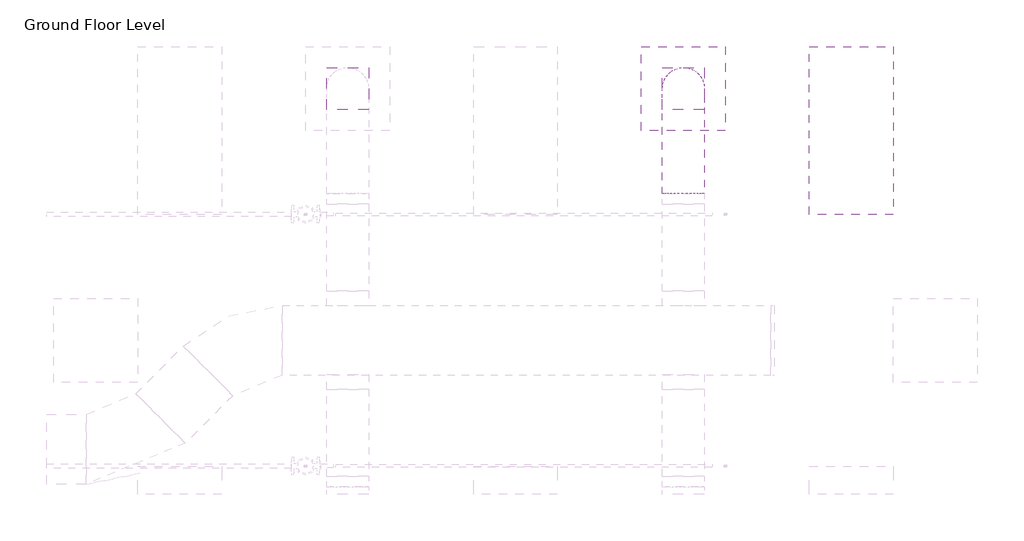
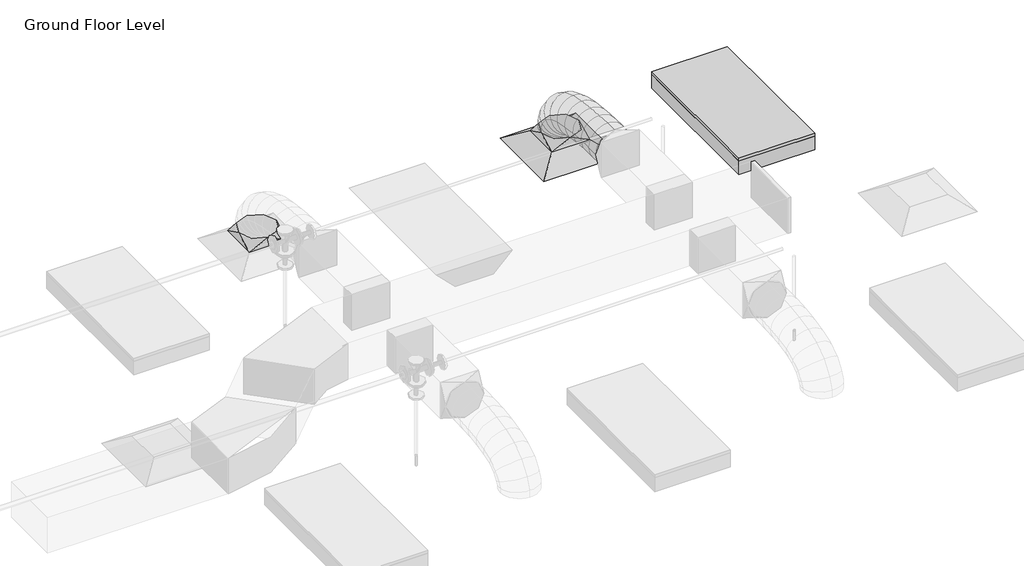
# One storey, part 75 of 75: 2 duct fittings, 1 air terminal, 1 duct segment, 1 light fixture.
"""IFC4 building model written with IfcOpenShell, lengths in millimetres."""

import ifcopenshell
import ifcopenshell.guid

model = None  # the IFC model being written
_history = None  # IfcOwnerHistory: only IFC2X3 demands one
_inside = {}  # id of a spatial element -> (the spatial element, [elements in it])
_under = {}  # id of a project, library or spatial element -> (it, [spatial elements below it])
_declared = {}  # id of a project -> (the project, [libraries it declares])
_typed = {}  # id of a type object -> (the type object, [elements of that type])
_made_of = {}  # id of a material, layer set ... -> (it, [elements and type objects made of it])


def new_model(schema):
    """Start an empty IFC model of exactly this schema.

    Asked for "IFC4X3", IfcOpenShell would pick the latest addendum, in which some entities
    have other attributes; the version numbers below select the first issue.
    IFC2X3 requires an IfcOwnerHistory on every rooted entity: one is made here for all.
    """
    global model, _history
    if schema == "IFC4X3":
        model = ifcopenshell.file(schema_version=(4, 3, 0, 0))
    else:
        model = ifcopenshell.file(schema=schema)
    _inside.clear()
    _under.clear()
    _declared.clear()
    _typed.clear()
    _made_of.clear()
    _history = None
    if model.schema == "IFC2X3":
        org = make("IfcOrganization", Name="unknown")
        user = make(
            "IfcPersonAndOrganization",
            ThePerson=make("IfcPerson", FamilyName="unknown"),
            TheOrganization=org,
        )
        app = make(
            "IfcApplication",
            ApplicationDeveloper=org,
            Version="unknown",
            ApplicationFullName="unknown",
            ApplicationIdentifier="unknown",
        )
        _history = make(
            "IfcOwnerHistory",
            OwningUser=user,
            OwningApplication=app,
            ChangeAction="ADDED",
            CreationDate=0,
        )
    return model


def make(cls, **values):
    """One entity of the class cls with the attributes given. An attribute that is None is left unset."""
    return model.create_entity(
        cls, **{name: value for name, value in values.items() if value is not None}
    )


def rooted(cls, **values):
    """An entity with a GlobalId (a new one), such as an element, a storey or a relation."""
    return make(cls, GlobalId=ifcopenshell.guid.new(), OwnerHistory=_history, **values)


def si_unit(unit_type, name, prefix=None):
    """IfcSIUnit, for example si_unit("LENGTHUNIT", "METRE", prefix="MILLI")."""
    return make("IfcSIUnit", UnitType=unit_type, Prefix=prefix, Name=name)


def assignment(units):
    """IfcUnitAssignment: the units of a project."""
    return None if units is None else make("IfcUnitAssignment", Units=units)


def point(xyz):
    """IfcCartesianPoint."""
    return None if xyz is None else make("IfcCartesianPoint", Coordinates=xyz)


def direction(xyz):
    """IfcDirection."""
    return None if xyz is None else make("IfcDirection", DirectionRatios=xyz)


def frame(location, z_axis=None, x_axis=None):
    """IfcAxis2Placement3D, a coordinate frame: its origin and axes. An axis left out is left unset."""
    return make(
        "IfcAxis2Placement3D",
        Location=point(location),
        Axis=direction(z_axis),
        RefDirection=direction(x_axis),
    )


def origin():
    """The frame at (0, 0, 0) with its axes left unset."""
    return frame((0.0, 0.0, 0.0))


def origin_with_axes():
    """The frame at (0, 0, 0) with the z axis (0, 0, 1) and the x axis (1, 0, 0) written out."""
    return frame((0.0, 0.0, 0.0), z_axis=(0.0, 0.0, 1.0), x_axis=(1.0, 0.0, 0.0))


def place(relative_to, where):
    """IfcLocalPlacement: puts the frame where relative to a parent placement (None: the world)."""
    return make(
        "IfcLocalPlacement", PlacementRelTo=relative_to, RelativePlacement=where
    )


def context(
    kind, dimensions, precision=None, world=None, true_north=None, identifier=None
):
    """IfcGeometricRepresentationContext, for example the 3D "Model" context."""
    return make(
        "IfcGeometricRepresentationContext",
        ContextIdentifier=identifier,
        ContextType=kind,
        CoordinateSpaceDimension=dimensions,
        Precision=precision,
        WorldCoordinateSystem=world,
        TrueNorth=true_north,
    )


def project(units=None, contexts=None):
    """IfcProject with its units and contexts."""
    return rooted(
        "IfcProject",
        Name="project",
        RepresentationContexts=contexts,
        UnitsInContext=assignment(units),
    )


def spatial(cls, under=None, at=None, **own):
    """A site, building, storey or space (cls), placed at a placement, below another one or the project."""
    s = rooted(cls, ObjectPlacement=at, **own)
    if under is not None:
        _under.setdefault(under.id(), (under, []))[1].append(s)
    return s


def polyline(points):
    """IfcPolyline through the points."""
    return make("IfcPolyline", Points=[point(p) for p in points])


def circle_curve(where, radius):
    """IfcCircle in the frame where."""
    return make("IfcCircle", Position=where, Radius=radius)


def ellipse_curve(where, semi_axis1, semi_axis2):
    """IfcEllipse in the frame where."""
    return make(
        "IfcEllipse", Position=where, SemiAxis1=semi_axis1, SemiAxis2=semi_axis2
    )


def outline(outer, holes=None, kind="AREA"):
    """IfcArbitraryClosedProfileDef: a profile drawn as a closed curve; with holes, ...WithVoids."""
    if holes is None:
        return make("IfcArbitraryClosedProfileDef", ProfileType=kind, OuterCurve=outer)
    return make(
        "IfcArbitraryProfileDefWithVoids",
        ProfileType=kind,
        OuterCurve=outer,
        InnerCurves=holes,
    )


def extrude(swept, where, along, depth):
    """IfcExtrudedAreaSolid: the profile swept, set in the frame where, extruded along a direction by depth."""
    return make(
        "IfcExtrudedAreaSolid",
        SweptArea=swept,
        Position=where,
        ExtrudedDirection=direction(along),
        Depth=depth,
    )


def faces_of(points, faces, orient=None, outer=None):
    """IfcFace entities. A face is a list of loops; a loop is a list of indices into points, from 0.

    orient and outer hold one flag for each loop. By default every Orientation is true, the
    first loop of a face is its IfcFaceOuterBound and the others are IfcFaceBound.
    """
    made = []
    for i, loops in enumerate(faces):
        bounds = []
        for j, loop in enumerate(loops):
            is_outer = j == 0 if outer is None else outer[i][j]
            bounds.append(
                make(
                    "IfcFaceOuterBound" if is_outer else "IfcFaceBound",
                    Bound=make("IfcPolyLoop", Polygon=[points[k] for k in loop]),
                    Orientation=True if orient is None else orient[i][j],
                )
            )
        made.append(make("IfcFace", Bounds=bounds))
    return made


def faceted_brep(points, faces, orient=None, outer=None, voids=None):
    """IfcFacetedBrep: a solid bounded by flat faces; with voids (closed shells), ...WithVoids."""
    shared = [point(p) for p in points]
    hull = make("IfcClosedShell", CfsFaces=faces_of(shared, faces, orient, outer))
    if voids is None:
        return make("IfcFacetedBrep", Outer=hull)
    return make(
        "IfcFacetedBrepWithVoids",
        Outer=hull,
        Voids=[
            make(cls, CfsFaces=faces_of(shared, fs, o, b)) for cls, fs, o, b in voids
        ],
    )


def shape(context_of_items, identifier, shape_type, items):
    """IfcShapeRepresentation: the items that make up one representation, for example the "Body"."""
    return make(
        "IfcShapeRepresentation",
        ContextOfItems=context_of_items,
        RepresentationIdentifier=identifier,
        RepresentationType=shape_type,
        Items=items,
    )


def source(mapping_origin, context_of_items, identifier, shape_type, items):
    """IfcRepresentationMap: a shape defined once, which mapped items show again and again."""
    return make(
        "IfcRepresentationMap",
        MappingOrigin=mapping_origin,
        MappedRepresentation=shape(context_of_items, identifier, shape_type, items),
    )


def transform(
    local_origin,
    x_axis=None,
    y_axis=None,
    z_axis=None,
    scale=None,
    scale2=None,
    scale3=None,
    uniform=True,
):
    """IfcCartesianTransformationOperator3D, or its non-uniform kind. x_axis, y_axis, z_axis: its Axis1, 2, 3."""
    if uniform:
        return make(
            "IfcCartesianTransformationOperator3D",
            Axis1=direction(x_axis),
            Axis2=direction(y_axis),
            LocalOrigin=point(local_origin),
            Scale=scale,
            Axis3=direction(z_axis),
        )
    return make(
        "IfcCartesianTransformationOperator3DnonUniform",
        Axis1=direction(x_axis),
        Axis2=direction(y_axis),
        LocalOrigin=point(local_origin),
        Scale=scale,
        Axis3=direction(z_axis),
        Scale2=scale2,
        Scale3=scale3,
    )


def mapped(mapping_source, mapping_target):
    """IfcMappedItem: shows the shape of a source again, moved by a transform."""
    return make(
        "IfcMappedItem", MappingSource=mapping_source, MappingTarget=mapping_target
    )


def made_of(thing, what):
    """Note that an element or type object is made of a material, layer set ...; save() writes the relation."""
    if what is not None:
        _made_of.setdefault(what.id(), (what, []))[1].append(thing)
    return thing


def element(
    cls,
    number,
    at=None,
    inside=None,
    cuts=None,
    type_object=None,
    material=None,
    context=None,
    identifier="Body",
    shape_type=None,
    held_by="IfcProductDefinitionShape",
    body=None,
    shapes=None,
    **own,
):
    """One element of the class cls, such as IfcWall. Its Tag is "e" and its number.

    at: its placement. inside: the storey or other place that contains it. cuts: it is an
    opening in that element (IfcRelVoidsElement). A single representation is given by context,
    identifier, shape_type and body (its items); several are given by shapes. held_by: the class
    of the entity that holds the representations. save() writes the other relations.
    """
    e = rooted(cls, Tag="e%d" % number, ObjectPlacement=at, **own)
    if body is not None:
        shapes = [shape(context, identifier, shape_type, body)]
    if shapes is not None:
        e.Representation = make(held_by, Representations=shapes)
    if inside is not None:
        _inside.setdefault(inside.id(), (inside, []))[1].append(e)
    if cuts is not None:
        rooted(
            "IfcRelVoidsElement", RelatingBuildingElement=cuts, RelatedOpeningElement=e
        )
    if type_object is not None:
        _typed.setdefault(type_object.id(), (type_object, []))[1].append(e)
    return made_of(e, material)


def aggregate(whole, parts):
    """IfcRelAggregates: a whole, such as a stair, and the parts it consists of."""
    return rooted("IfcRelAggregates", RelatingObject=whole, RelatedObjects=parts)


def save(model, path):
    """Write the relations noted so far, then the file.

    IfcRelAggregates (storeys below a building ...), IfcRelContainedInSpatialStructure (elements
    in a storey), IfcRelDefinesByType, IfcRelAssociatesMaterial and IfcRelDeclares: one each for
    every whole, place, type object, material and project.
    """
    for whole, parts in _under.values():
        aggregate(whole, parts)
    for where, things in _inside.values():
        rooted(
            "IfcRelContainedInSpatialStructure",
            RelatedElements=things,
            RelatingStructure=where,
        )
    for kind, things in _typed.values():
        rooted("IfcRelDefinesByType", RelatedObjects=things, RelatingType=kind)
    for what, things in _made_of.values():
        rooted("IfcRelAssociatesMaterial", RelatedObjects=things, RelatingMaterial=what)
    for by, libraries in _declared.values():
        rooted("IfcRelDeclares", RelatingContext=by, RelatedDefinitions=libraries)
    model.write(path)


def plane_surface(at):
    """IfcPlane: the flat surface through the origin of the frame at, square to its z axis."""
    return make("IfcPlane", Position=at)


def cylinder_surface(at, radius):
    """IfcCylindricalSurface: all points at the distance radius from the z axis of the frame at."""
    return make("IfcCylindricalSurface", Position=at, Radius=radius)


def spline_surface(u_degree, v_degree, points, u_multiplicities, v_multiplicities, u_knots, v_knots, weights=None):
    """IfcBSplineSurfaceWithKnots; with weights, IfcRationalBSplineSurfaceWithKnots. points: one row for each step in u."""
    own = dict(
        UDegree=u_degree,
        VDegree=v_degree,
        ControlPointsList=[[point(p) for p in row] for row in points],
        SurfaceForm="UNSPECIFIED",
        UClosed=False,
        VClosed=False,
        SelfIntersect=False,
        UMultiplicities=u_multiplicities,
        VMultiplicities=v_multiplicities,
        UKnots=u_knots,
        VKnots=v_knots,
        KnotSpec="UNSPECIFIED",
    )
    if weights is None:
        return make("IfcBSplineSurfaceWithKnots", **own)
    return make("IfcRationalBSplineSurfaceWithKnots", WeightsData=weights, **own)


def advanced_brep(points, edges, surfaces, faces):
    """IfcAdvancedBrep: a solid bounded by faces that lie on surfaces and meet in shared edges.

    An edge is (start, end): straight between two places in points (the first is 0);
    or (start, end, curve); or (start, end, curve, False) where it runs against its curve.
    A face is (place in surfaces, loops), or (place, loops, False) where it looks against
    its surface's normal. A loop lists edges by number (the first is 1), with a minus sign
    where the edge is run from its end to its start. The first loop is the outer one.
    """
    corners = [point(p) for p in points]
    vertices = [make("IfcVertexPoint", VertexGeometry=c) for c in corners]
    made = []
    for start, end, *more in edges:
        made.append(
            make(
                "IfcEdgeCurve",
                EdgeStart=vertices[start],
                EdgeEnd=vertices[end],
                EdgeGeometry=more[0] if more else make("IfcPolyline", Points=[corners[start], corners[end]]),
                SameSense=more[1] if len(more) > 1 else True,
            )
        )
    hull = []
    for where, loops, *sense in faces:
        bounds = []
        for j, loop in enumerate(loops):
            ring = [make("IfcOrientedEdge", EdgeElement=made[abs(k) - 1], Orientation=k > 0) for k in loop]
            bounds.append(
                make(
                    "IfcFaceOuterBound" if j == 0 else "IfcFaceBound",
                    Bound=make("IfcEdgeLoop", EdgeList=ring),
                    Orientation=True,
                )
            )
        hull.append(make("IfcAdvancedFace", Bounds=bounds, FaceSurface=surfaces[where], SameSense=sense[0] if sense else True))
    return make("IfcAdvancedBrep", Outer=make("IfcClosedShell", CfsFaces=hull))


def m_return_diffuser_600_x_600_face_300_x_300_connection_ff221211(model_context):
    return source(origin(), model_context, "Body", "Brep", [
        faceted_brep([(150.0, 150.0, 101.6), (-150.0, 150.0, 101.6), (-150.0, -150.0, 101.6), (150.0, -150.0, 101.6), (300.0, 300.0, 0.0), (300.0, -300.0, 0.0), (-300.0, -300.0, 0.0), (-300.0, 300.0, 0.0)], [[[0, 1, 2, 3]], [[4, 5, 6, 7]], [[4, 7, 1, 0]], [[7, 6, 2, 1]], [[6, 5, 3, 2]], [[5, 4, 0, 3]]]),
    ])


def m_rectangular_to_round_transition_angle_45_degree_641efff0(model_context):
    return source(origin(), model_context, "Body", "AdvancedBrep", [
        advanced_brep(
        [(75.0, 0.0, 150.0), (75.0, -150.0, 0.0), (75.0, 0.0, -150.0), (75.0, 150.0, 0.0), (0.0, -150.0, 150.0), (0.0, 150.0, 150.0), (0.0, 150.0, -150.0), (0.0, -150.0, -150.0)],
        [
            (0, 1, circle_curve(frame((75.0, 0.0, 0.0), z_axis=(1.0, 0.0, 0.0), x_axis=(0.0, 1.0, 0.0)), 150.0)),
            (1, 2, circle_curve(frame((75.0, 0.0, 0.0), z_axis=(1.0, 0.0, 0.0), x_axis=(0.0, 1.0, 0.0)), 150.0)),
            (2, 3, circle_curve(frame((75.0, 0.0, 0.0), z_axis=(1.0, 0.0, 0.0), x_axis=(0.0, 1.0, 0.0)), 150.0)),
            (3, 0, circle_curve(frame((75.0, 0.0, 0.0), z_axis=(1.0, 0.0, 0.0), x_axis=(0.0, 1.0, 0.0)), 150.0)),
            (4, 5),
            (5, 6),
            (6, 7),
            (7, 4),
            (0, 4),
            (4, 1),
            (7, 1),
            (7, 2),
            (6, 2),
            (6, 3),
            (5, 3),
            (5, 0),
        ],
        [
            plane_surface(frame((75.0, 0.0, 0.0), z_axis=(1.0, 0.0, 0.0), x_axis=(0.0, 0.0, -1.0))),
            plane_surface(frame((0.0, 0.0, 0.0), z_axis=(-1.0, 0.0, 0.0), x_axis=(0.0, 0.0, -1.0))),
            spline_surface(2, 1, [[(0.0, -150.0, 150.0), (75.0, 0.0, 150.0)], [(0.0, -150.0, 150.0), (75.0, -150.0, 150.0)], [(0.0, -150.0, 150.0), (75.0, -150.0, 0.0)]], [3, 3], [2, 2], [0.0, 1.0], [0.0, 1.0], weights=[[1.0, 1.0], [0.7071067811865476, 0.7071067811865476], [1.0, 1.0]]),
            plane_surface(frame((0.0, -150.0, 0.0), z_axis=(0.0, -1.0, 0.0), x_axis=(0.0, 0.0, -1.0))),
            spline_surface(2, 1, [[(0.0, -150.0, -150.0), (75.0, -150.0, 0.0)], [(0.0, -150.0, -150.0), (75.0, -150.0, -150.0)], [(0.0, -150.0, -150.0), (75.0, 0.0, -150.0)]], [3, 3], [2, 2], [0.0, 1.0], [0.0, 1.0], weights=[[1.0, 1.0], [0.7071067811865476, 0.7071067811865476], [1.0, 1.0]]),
            plane_surface(frame((0.0, 0.0, -150.0), z_axis=(0.0, 0.0, -1.0), x_axis=(0.0, 1.0, 0.0))),
            spline_surface(2, 1, [[(0.0, 150.0, -150.0), (75.0, 0.0, -150.0)], [(0.0, 150.0, -150.0), (75.0, 150.0, -150.0)], [(0.0, 150.0, -150.0), (75.0, 150.0, 0.0)]], [3, 3], [2, 2], [0.0, 1.0], [0.0, 1.0], weights=[[1.0, 1.0], [0.7071067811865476, 0.7071067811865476], [1.0, 1.0]]),
            plane_surface(frame((0.0, 150.0, 0.0), z_axis=(0.0, 1.0, 0.0), x_axis=(0.0, 0.0, 1.0))),
            spline_surface(2, 1, [[(0.0, 150.0, 150.0), (75.0, 150.0, 0.0)], [(0.0, 150.0, 150.0), (75.0, 150.0, 150.0)], [(0.0, 150.0, 150.0), (75.0, 0.0, 150.0)]], [3, 3], [2, 2], [0.0, 1.0], [0.0, 1.0], weights=[[1.0, 1.0], [0.7071067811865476, 0.7071067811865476], [1.0, 1.0]]),
            plane_surface(frame((0.0, 0.0, 150.0), z_axis=(0.0, 0.0, 1.0), x_axis=(0.0, -1.0, 0.0))),
        ],
        [
            (0, [[1, 2, 3, 4]]),
            (1, [[5, 6, 7, 8]]),
            (2, [[-1, 9, 10]]),
            (3, [[-8, 11, -10]]),
            (4, [[-2, -11, 12]]),
            (5, [[-7, 13, -12]]),
            (6, [[-3, -13, 14]]),
            (7, [[-6, 15, -14]]),
            (8, [[-4, -15, 16]]),
            (9, [[-5, -9, -16]]),
        ],
    ),
    ])


def m_troffer_light_parabolic_rectangular1_0600x1200mm_4_lamp_86473d4a(model_context):
    return source(origin(), model_context, "Body", "SweptSolid", [
        extrude(outline(polyline([(555.8964984, 215.1340679), (555.8964984, -334.0659321), (-593.3035016, -334.0659321), (-593.3035016, 215.1340679), (555.8964984, 215.1340679)])), frame((0.0, 0.0, 76.2), z_axis=(0.0, 0.0, 1.0), x_axis=(1.0, 0.0, 0.0)), (0.0, 0.0, 1.0), 6.35),
        extrude(outline(polyline([(565.4964984, 219.9340679), (565.4964984, -338.8659321), (-602.9035016, -338.8659321), (-602.9035016, 219.9340679), (565.4964984, 219.9340679)]), holes=[polyline([(-409.2285016, 35.7840679), (-409.2285016, 213.5840679), (-596.5535016, 213.5840679), (-596.5535016, 35.7840679), (-409.2285016, 35.7840679)]), polyline([(-409.2285016, -148.3659321), (-409.2285016, 29.4340679), (-596.5535016, 29.4340679), (-596.5535016, -148.3659321), (-409.2285016, -148.3659321)]), polyline([(-409.2285016, -154.7159321), (-596.5535016, -154.7159321), (-596.5535016, -332.5159321), (-409.2285016, -332.5159321), (-409.2285016, -154.7159321)]), polyline([(-215.5535016, 35.7840679), (-215.5535016, 213.5840679), (-402.8785016, 213.5840679), (-402.8785016, 35.7840679), (-215.5535016, 35.7840679)]), polyline([(-215.5535016, -148.3659321), (-215.5535016, 29.4340679), (-402.8785016, 29.4340679), (-402.8785016, -148.3659321), (-215.5535016, -148.3659321)]), polyline([(-215.5535016, -154.7159321), (-402.8785016, -154.7159321), (-402.8785016, -332.5159321), (-215.5535016, -332.5159321), (-215.5535016, -154.7159321)]), polyline([(-21.8785016, 35.7840679), (-21.8785016, 213.5840679), (-209.2035016, 213.5840679), (-209.2035016, 35.7840679), (-21.8785016, 35.7840679)]), polyline([(-21.8785016, -148.3659321), (-21.8785016, 29.4340679), (-209.2035016, 29.4340679), (-209.2035016, -148.3659321), (-21.8785016, -148.3659321)]), polyline([(-21.8785016, -154.7159321), (-209.2035016, -154.7159321), (-209.2035016, -332.5159321), (-21.8785016, -332.5159321), (-21.8785016, -154.7159321)]), polyline([(171.7964984, 35.7840679), (171.7964984, 213.5840679), (-15.5285016, 213.5840679), (-15.5285016, 35.7840679), (171.7964984, 35.7840679)]), polyline([(171.7964984, -148.3659321), (171.7964984, 29.4340679), (-15.5285016, 29.4340679), (-15.5285016, -148.3659321), (171.7964984, -148.3659321)]), polyline([(171.7964984, -154.7159321), (-15.5285016, -154.7159321), (-15.5285016, -332.5159321), (171.7964984, -332.5159321), (171.7964984, -154.7159321)]), polyline([(365.4714984, 35.7840679), (365.4714984, 213.5840679), (178.1464984, 213.5840679), (178.1464984, 35.7840679), (365.4714984, 35.7840679)]), polyline([(365.4714984, -148.3659321), (365.4714984, 29.4340679), (178.1464984, 29.4340679), (178.1464984, -148.3659321), (365.4714984, -148.3659321)]), polyline([(365.4714984, -154.7159321), (178.1464984, -154.7159321), (178.1464984, -332.5159321), (365.4714984, -332.5159321), (365.4714984, -154.7159321)]), polyline([(559.1464984, 35.7840679), (559.1464984, 213.5840679), (371.8214984, 213.5840679), (371.8214984, 35.7840679), (559.1464984, 35.7840679)]), polyline([(559.1464984, -148.3659321), (559.1464984, 29.4340679), (371.8214984, 29.4340679), (371.8214984, -148.3659321), (559.1464984, -148.3659321)]), polyline([(559.1464984, -154.7159321), (371.8214984, -154.7159321), (371.8214984, -332.5159321), (559.1464984, -332.5159321), (559.1464984, -154.7159321)])]), frame((0.0, 0.0, 3.175), z_axis=(0.0, 0.0, 1.0), x_axis=(1.0, 0.0, 0.0)), (0.0, 0.0, 1.0), 47.625),
        extrude(outline(polyline([(581.2964984, 240.5340679), (581.2964984, -359.4659321), (-618.7035016, -359.4659321), (-618.7035016, 240.5340679), (581.2964984, 240.5340679)]), holes=[polyline([(555.8964984, 215.1340679), (-593.3035016, 215.1340679), (-593.3035016, -334.0659321), (555.8964984, -334.0659321), (555.8964984, 215.1340679)])]), origin_with_axes(), (0.0, 0.0, 1.0), 114.3),
        extrude(outline(polyline([(581.2964984, 240.5340679), (581.2964984, -359.4659321), (-618.7035016, -359.4659321), (-618.7035016, 240.5340679), (581.2964984, 240.5340679)])), frame((0.0, 0.0, 114.3), z_axis=(0.0, 0.0, 1.0), x_axis=(1.0, 0.0, 0.0)), (0.0, 0.0, 1.0), 25.4),
    ])


model = new_model("IFC4")

# Units and contexts
model_context = context("Model", 3, world=origin())
ifc_project = project(units=[si_unit("LENGTHUNIT", "METRE", prefix="MILLI")], contexts=[model_context])

# Site, building, storey
site = spatial("IfcSite", under=ifc_project)
building = spatial("IfcBuilding", under=site)
storey = spatial("IfcBuildingStorey", under=building, Name="Ground Floor Level", Elevation=900.0)

# Air terminal
placement = place(None, origin())
m_return_diffuser_600_x_600_face_300_x_300_connection_shape = m_return_diffuser_600_x_600_face_300_x_300_connection_ff221211(model_context)
element("IfcAirTerminal", 1, ObjectType="M_Supply Diffuser : 600 x 600 Face 300 x 300 Connection", at=placement, inside=storey, context=model_context, shape_type="MappedRepresentation", body=[
    mapped(m_return_diffuser_600_x_600_face_300_x_300_connection_shape, transform((13142.7672395, 20535.2153534, 3650.0), x_axis=(1.0, 0.0, 0.0), y_axis=(0.0, 1.0, 0.0), z_axis=(0.0, 0.0, 1.0))),
])

# Duct fittings
m_rectangular_to_round_transition_angle_45_degree_shape = m_rectangular_to_round_transition_angle_45_degree_641efff0(model_context)
element("IfcDuctFitting", 2, ObjectType="M_Rectangular to Round Transition - Angle : 45 Degree", at=placement, inside=storey, context=model_context, shape_type="MappedRepresentation", body=[
    mapped(m_rectangular_to_round_transition_angle_45_degree_shape, transform((10742.7672395, 20535.2153534, 3751.6), x_axis=(0.0, 0.0, 1.0), y_axis=(-1.0, 0.0, 0.0), z_axis=(0.0, -1.0, 0.0))),
])
element("IfcDuctFitting", 3, ObjectType="M_Rectangular to Round Transition - Angle : 45 Degree", at=placement, inside=storey, context=model_context, shape_type="MappedRepresentation", body=[
    mapped(m_rectangular_to_round_transition_angle_45_degree_shape, transform((13142.7672395, 20535.2153534, 3751.6), x_axis=(0.0, 0.0, 1.0), y_axis=(-1.0, 0.0, 0.0), z_axis=(0.0, -1.0, 0.0))),
])

# Duct segment
element("IfcDuctSegment", 4, ObjectType="Flex - Round", at=placement, inside=storey, context=model_context, shape_type="AdvancedBrep", body=[
    advanced_brep(
    [(13292.7672395, 20535.2153534, 3826.6), (13142.7672395, 20385.2153534, 3826.6), (12992.7672395, 20535.2153534, 3826.6), (13142.7672395, 20685.2153534, 3826.6), (13292.7672395, 20535.2153534, 3857.9377114), (13142.7672395, 20385.2153534, 3832.2944892), (12992.7672395, 20535.2153534, 3857.9377114), (13142.7672395, 20685.2153534, 3883.5809337), (13292.7672395, 20518.1994208, 3906.2505728), (13142.7672395, 20384.4614419, 3834.435049), (12992.7672395, 20518.1994208, 3906.2505728), (13142.7672395, 20651.9373998, 3978.0660967), (13292.7672395, 20471.0155405, 3968.7113131), (13142.7672395, 20366.8096412, 3857.8020236), (12992.7672395, 20471.0155405, 3968.7113131), (13142.7672395, 20575.2214397, 4079.6206026), (13292.7672395, 20399.4595883, 4016.0700639), (13142.7672395, 20330.5255327, 3881.8163788), (12992.7672395, 20399.4595883, 4016.0700639), (13142.7672395, 20468.3936439, 4150.3237489), (13292.7672395, 20309.3274403, 4050.4146682), (13142.7672395, 20265.7666771, 3906.4925606), (12992.7672395, 20309.3274403, 4050.4146682), (13142.7672395, 20352.8882035, 4194.3367758), (13292.7672395, 20206.4149725, 4073.8329691), (13142.7672395, 20179.8540485, 3926.0424542), (12992.7672395, 20206.4149725, 4073.8329691), (13142.7672395, 20232.9758965, 4221.6234841), (13292.7672395, 20096.5180607, 4088.4128097), (13142.7672395, 20081.3671584, 3939.1085462), (12992.7672395, 20096.5180607, 4088.4128097), (13142.7672395, 20111.6689631, 4237.7170733), (13292.7672395, 19985.4325811, 4096.242033), (13142.7672395, 19977.9272529, 3946.398915), (12992.7672395, 19985.4325811, 4096.242033), (13142.7672395, 19992.9379093, 4246.085151), (13292.7672395, 19878.9544096, 4099.4084821), (13142.7672395, 19876.2629165, 3949.4222102), (12992.7672395, 19878.9544096, 4099.4084821), (13142.7672395, 19881.6459027, 4249.394754), (13292.7672395, 19782.8794221, 4100.0), (13142.7672395, 19783.8029299, 4249.9971571), (12992.7672395, 19782.8794221, 4100.0), (13142.7672395, 19781.9559143, 3950.0028429)],
    [
        (0, 1, circle_curve(frame((13142.7672395, 20535.2153534, 3826.6), z_axis=(0.0, 0.0, -1.0), x_axis=(1.0, 0.0, 0.0)), 150.0)),
        (1, 2, circle_curve(frame((13142.7672395, 20535.2153534, 3826.6), z_axis=(0.0, 0.0, -1.0), x_axis=(1.0, 0.0, 0.0)), 150.0)),
        (2, 3, circle_curve(frame((13142.7672395, 20535.2153534, 3826.6), z_axis=(0.0, 0.0, -1.0), x_axis=(1.0, 0.0, 0.0)), 150.0)),
        (3, 0, circle_curve(frame((13142.7672395, 20535.2153534, 3826.6), z_axis=(0.0, 0.0, -1.0), x_axis=(1.0, 0.0, 0.0)), 150.0)),
        (0, 4),
        (4, 5, ellipse_curve(frame((13142.7672395, 20535.2153534, 3857.9377114), z_axis=(0.0, 0.16851014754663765, -0.9856999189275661), x_axis=(0.0, -0.985699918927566, -0.1685101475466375)), 152.176131, 150.0)),
        (5, 1),
        (5, 6, ellipse_curve(frame((13142.7672395, 20535.2153534, 3857.9377114), z_axis=(0.0, 0.16851014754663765, -0.9856999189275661), x_axis=(0.0, -0.985699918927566, -0.1685101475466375)), 152.176131, 150.0)),
        (6, 2),
        (6, 7, ellipse_curve(frame((13142.7672395, 20535.2153534, 3857.9377114), z_axis=(0.0, 0.16851014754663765, -0.9856999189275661), x_axis=(0.0, -0.985699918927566, -0.1685101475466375)), 152.176131, 150.0)),
        (7, 3),
        (7, 4, ellipse_curve(frame((13142.7672395, 20535.2153534, 3857.9377114), z_axis=(0.0, 0.16851014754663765, -0.9856999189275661), x_axis=(0.0, -0.985699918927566, -0.1685101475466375)), 152.176131, 150.0)),
        (4, 8),
        (8, 9, ellipse_curve(frame((13142.7672395, 20518.1994208, 3906.2505728), z_axis=(0.0, 0.4730922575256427, -0.881012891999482), x_axis=(0.0, -0.8810128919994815, -0.4730922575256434)), 151.8002519, 150.0)),
        (9, 5),
        (9, 10, ellipse_curve(frame((13142.7672395, 20518.1994208, 3906.2505728), z_axis=(0.0, 0.4730922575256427, -0.881012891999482), x_axis=(0.0, -0.8810128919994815, -0.4730922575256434)), 151.8002519, 150.0)),
        (10, 6),
        (10, 11, ellipse_curve(frame((13142.7672395, 20518.1994208, 3906.2505728), z_axis=(0.0, 0.4730922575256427, -0.881012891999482), x_axis=(0.0, -0.8810128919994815, -0.4730922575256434)), 151.8002519, 150.0)),
        (11, 7),
        (11, 8, ellipse_curve(frame((13142.7672395, 20518.1994208, 3906.2505728), z_axis=(0.0, 0.4730922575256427, -0.881012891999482), x_axis=(0.0, -0.8810128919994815, -0.4730922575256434)), 151.8002519, 150.0)),
        (8, 12),
        (12, 13, ellipse_curve(frame((13142.7672395, 20471.0155405, 3968.7113131), z_axis=(0.0, 0.7287877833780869, -0.68473963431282), x_axis=(0.0, -0.6847396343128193, -0.7287877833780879)), 152.1832446, 150.0)),
        (13, 9),
        (13, 14, ellipse_curve(frame((13142.7672395, 20471.0155405, 3968.7113131), z_axis=(0.0, 0.7287877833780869, -0.68473963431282), x_axis=(0.0, -0.6847396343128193, -0.7287877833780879)), 152.1832446, 150.0)),
        (14, 10),
        (14, 15, ellipse_curve(frame((13142.7672395, 20471.0155405, 3968.7113131), z_axis=(0.0, 0.7287877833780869, -0.68473963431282), x_axis=(0.0, -0.6847396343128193, -0.7287877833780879)), 152.1832446, 150.0)),
        (15, 11),
        (15, 12, ellipse_curve(frame((13142.7672395, 20471.0155405, 3968.7113131), z_axis=(0.0, 0.7287877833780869, -0.68473963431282), x_axis=(0.0, -0.6847396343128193, -0.7287877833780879)), 152.1832446, 150.0)),
        (12, 16),
        (16, 17, ellipse_curve(frame((13142.7672395, 20399.4595883, 4016.0700639), z_axis=(0.0, 0.8895859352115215, -0.45676784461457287), x_axis=(0.0, -0.45676784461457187, -0.889585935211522)), 150.91705, 150.0)),
        (17, 13),
        (17, 18, ellipse_curve(frame((13142.7672395, 20399.4595883, 4016.0700639), z_axis=(0.0, 0.8895859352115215, -0.45676784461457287), x_axis=(0.0, -0.45676784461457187, -0.889585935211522)), 150.91705, 150.0)),
        (18, 14),
        (18, 19, ellipse_curve(frame((13142.7672395, 20399.4595883, 4016.0700639), z_axis=(0.0, 0.8895859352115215, -0.45676784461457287), x_axis=(0.0, -0.45676784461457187, -0.889585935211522)), 150.91705, 150.0)),
        (19, 15),
        (19, 16, ellipse_curve(frame((13142.7672395, 20399.4595883, 4016.0700639), z_axis=(0.0, 0.8895859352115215, -0.45676784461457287), x_axis=(0.0, -0.45676784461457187, -0.889585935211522)), 150.91705, 150.0)),
        (16, 20),
        (20, 21, ellipse_curve(frame((13142.7672395, 20309.3274403, 4050.4146682), z_axis=(0.0, 0.9571203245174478, -0.2896906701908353), x_axis=(0.0, -0.28969067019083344, -0.9571203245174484)), 150.369921, 150.0)),
        (21, 17),
        (21, 22, ellipse_curve(frame((13142.7672395, 20309.3274403, 4050.4146682), z_axis=(0.0, 0.9571203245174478, -0.2896906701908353), x_axis=(0.0, -0.28969067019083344, -0.9571203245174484)), 150.369921, 150.0)),
        (22, 18),
        (22, 23, ellipse_curve(frame((13142.7672395, 20309.3274403, 4050.4146682), z_axis=(0.0, 0.9571203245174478, -0.2896906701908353), x_axis=(0.0, -0.28969067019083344, -0.9571203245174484)), 150.369921, 150.0)),
        (23, 19),
        (23, 20, ellipse_curve(frame((13142.7672395, 20309.3274403, 4050.4146682), z_axis=(0.0, 0.9571203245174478, -0.2896906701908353), x_axis=(0.0, -0.28969067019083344, -0.9571203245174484)), 150.369921, 150.0)),
        (20, 24),
        (24, 25, ellipse_curve(frame((13142.7672395, 20206.4149725, 4073.8329691), z_axis=(0.0, 0.9842313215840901, -0.17688613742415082), x_axis=(0.0, -0.17688613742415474, -0.9842313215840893)), 150.1583131, 150.0)),
        (25, 21),
        (25, 26, ellipse_curve(frame((13142.7672395, 20206.4149725, 4073.8329691), z_axis=(0.0, 0.9842313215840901, -0.17688613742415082), x_axis=(0.0, -0.17688613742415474, -0.9842313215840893)), 150.1583131, 150.0)),
        (26, 22),
        (26, 27, ellipse_curve(frame((13142.7672395, 20206.4149725, 4073.8329691), z_axis=(0.0, 0.9842313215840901, -0.17688613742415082), x_axis=(0.0, -0.17688613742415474, -0.9842313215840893)), 150.1583131, 150.0)),
        (27, 23),
        (27, 24, ellipse_curve(frame((13142.7672395, 20206.4149725, 4073.8329691), z_axis=(0.0, 0.9842313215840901, -0.17688613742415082), x_axis=(0.0, -0.17688613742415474, -0.9842313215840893)), 150.1583131, 150.0)),
        (24, 28),
        (28, 29, ellipse_curve(frame((13142.7672395, 20096.5180607, 4088.4128097), z_axis=(0.0, 0.9948906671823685, -0.10095821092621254), x_axis=(0.0, -0.10095821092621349, -0.9948906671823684)), 150.0710264, 150.0)),
        (29, 25),
        (29, 30, ellipse_curve(frame((13142.7672395, 20096.5180607, 4088.4128097), z_axis=(0.0, 0.9948906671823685, -0.10095821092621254), x_axis=(0.0, -0.10095821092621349, -0.9948906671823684)), 150.0710264, 150.0)),
        (30, 26),
        (30, 31, ellipse_curve(frame((13142.7672395, 20096.5180607, 4088.4128097), z_axis=(0.0, 0.9948906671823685, -0.10095821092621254), x_axis=(0.0, -0.10095821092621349, -0.9948906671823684)), 150.0710264, 150.0)),
        (31, 27),
        (31, 28, ellipse_curve(frame((13142.7672395, 20096.5180607, 4088.4128097), z_axis=(0.0, 0.9948906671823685, -0.10095821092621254), x_axis=(0.0, -0.10095821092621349, -0.9948906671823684)), 150.0710264, 150.0)),
        (28, 32),
        (32, 33, ellipse_curve(frame((13142.7672395, 19985.4325811, 4096.242033), z_axis=(0.0, 0.9987479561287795, -0.05002519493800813), x_axis=(0.0, -0.05002519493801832, -0.9987479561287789)), 150.0309634, 150.0)),
        (33, 29),
        (33, 34, ellipse_curve(frame((13142.7672395, 19985.4325811, 4096.242033), z_axis=(0.0, 0.9987479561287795, -0.05002519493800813), x_axis=(0.0, -0.05002519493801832, -0.9987479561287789)), 150.0309634, 150.0)),
        (34, 30),
        (34, 35, ellipse_curve(frame((13142.7672395, 19985.4325811, 4096.242033), z_axis=(0.0, 0.9987479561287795, -0.05002519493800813), x_axis=(0.0, -0.05002519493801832, -0.9987479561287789)), 150.0309634, 150.0)),
        (35, 31),
        (35, 32, ellipse_curve(frame((13142.7672395, 19985.4325811, 4096.242033), z_axis=(0.0, 0.9987479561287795, -0.05002519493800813), x_axis=(0.0, -0.05002519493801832, -0.9987479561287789)), 150.0309634, 150.0)),
        (32, 36),
        (36, 37, ellipse_curve(frame((13142.7672395, 19878.9544096, 4099.4084821), z_axis=(0.0, 0.9998390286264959, -0.01794204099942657), x_axis=(0.0, -0.01794204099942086, -0.999839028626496)), 150.0104193, 150.0)),
        (37, 33),
        (37, 38, ellipse_curve(frame((13142.7672395, 19878.9544096, 4099.4084821), z_axis=(0.0, 0.9998390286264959, -0.01794204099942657), x_axis=(0.0, -0.01794204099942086, -0.999839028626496)), 150.0104193, 150.0)),
        (38, 34),
        (38, 39, ellipse_curve(frame((13142.7672395, 19878.9544096, 4099.4084821), z_axis=(0.0, 0.9998390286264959, -0.01794204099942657), x_axis=(0.0, -0.01794204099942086, -0.999839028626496)), 150.0104193, 150.0)),
        (39, 35),
        (39, 36, ellipse_curve(frame((13142.7672395, 19878.9544096, 4099.4084821), z_axis=(0.0, 0.9998390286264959, -0.01794204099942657), x_axis=(0.0, -0.01794204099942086, -0.999839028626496)), 150.0104193, 150.0)),
        (40, 41, circle_curve(frame((13142.7672395, 19782.8794221, 4100.0), z_axis=(0.0, -0.9999810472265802, 0.006156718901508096), x_axis=(1.0, 0.0, 0.0)), 150.0)),
        (41, 42, circle_curve(frame((13142.7672395, 19782.8794221, 4100.0), z_axis=(0.0, -0.9999810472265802, 0.006156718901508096), x_axis=(1.0, 0.0, 0.0)), 150.0)),
        (42, 43, circle_curve(frame((13142.7672395, 19782.8794221, 4100.0), z_axis=(0.0, -0.9999810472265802, 0.006156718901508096), x_axis=(1.0, 0.0, 0.0)), 150.0)),
        (43, 40, circle_curve(frame((13142.7672395, 19782.8794221, 4100.0), z_axis=(0.0, -0.9999810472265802, 0.006156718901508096), x_axis=(1.0, 0.0, 0.0)), 150.0)),
        (36, 40),
        (43, 37),
        (42, 38),
        (41, 39),
    ],
    [
        plane_surface(frame((13142.7672395, 20385.2153534, 3826.6), z_axis=(0.0, 0.0, -1.0), x_axis=(1.0, 0.0, 0.0))),
        cylinder_surface(frame((13142.7672395, 20535.2153534, 3826.6), z_axis=(0.0, 0.0, -1.0), x_axis=(1.0, 0.0, 0.0)), 150.0),
        cylinder_surface(frame((13142.7672395, 20535.2153534, 3857.9377114), z_axis=(0.0, 0.33220087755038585, -0.9432086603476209), x_axis=(1.0, 0.0, 0.0)), 150.0),
        cylinder_surface(frame((13142.7672395, 20518.1994208, 3906.2505728), z_axis=(0.0, 0.6027625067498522, -0.7979206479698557), x_axis=(1.0, 0.0, 0.0)), 150.0),
        cylinder_surface(frame((13142.7672395, 20471.0155405, 3968.7113131), z_axis=(0.0, 0.833902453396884, -0.5519118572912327), x_axis=(1.0, 0.0, 0.0)), 150.0),
        cylinder_surface(frame((13142.7672395, 20399.4595883, 4016.0700639), z_axis=(0.0, 0.9344582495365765, -0.3560727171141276), x_axis=(1.0, 0.0, 0.0)), 150.0),
        cylinder_surface(frame((13142.7672395, 20309.3274403, 4050.4146682), z_axis=(0.0, 0.9750732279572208, -0.2218833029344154), x_axis=(1.0, 0.0, 0.0)), 150.0),
        cylinder_surface(frame((13142.7672395, 20206.4149725, 4073.8329691), z_axis=(0.0, 0.991314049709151, -0.13151598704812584), x_axis=(1.0, 0.0, 0.0)), 150.0),
        cylinder_surface(frame((13142.7672395, 20096.5180607, 4088.4128097), z_axis=(0.0, 0.9975255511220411, -0.07030487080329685), x_axis=(1.0, 0.0, 0.0)), 150.0),
        cylinder_surface(frame((13142.7672395, 19985.4325811, 4096.242033), z_axis=(0.0, 0.9995581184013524, -0.02972487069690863), x_axis=(1.0, 0.0, 0.0)), 150.0),
        plane_surface(frame((13142.7672395, 19781.9559143, 3950.0028429), z_axis=(0.0, -0.9999810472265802, 0.006156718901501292), x_axis=(1.0, 0.0, 0.0))),
        cylinder_surface(frame((13142.7672395, 19878.9544096, 4099.4084821), z_axis=(0.0, 0.9999810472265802, -0.006156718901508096), x_axis=(1.0, 0.0, 0.0)), 150.0),
    ],
    [
        (0, [[1, 2, 3, 4]]),
        (1, [[-1, 5, 6, 7]]),
        (1, [[-2, -7, 8, 9]]),
        (1, [[-3, -9, 10, 11]]),
        (1, [[-4, -11, 12, -5]]),
        (2, [[-6, 13, 14, 15]]),
        (2, [[-8, -15, 16, 17]]),
        (2, [[-10, -17, 18, 19]]),
        (2, [[-12, -19, 20, -13]]),
        (3, [[-14, 21, 22, 23]]),
        (3, [[-16, -23, 24, 25]]),
        (3, [[-18, -25, 26, 27]]),
        (3, [[-20, -27, 28, -21]]),
        (4, [[-22, 29, 30, 31]]),
        (4, [[-24, -31, 32, 33]]),
        (4, [[-26, -33, 34, 35]]),
        (4, [[-28, -35, 36, -29]]),
        (5, [[-30, 37, 38, 39]]),
        (5, [[-32, -39, 40, 41]]),
        (5, [[-34, -41, 42, 43]]),
        (5, [[-36, -43, 44, -37]]),
        (6, [[-38, 45, 46, 47]]),
        (6, [[-40, -47, 48, 49]]),
        (6, [[-42, -49, 50, 51]]),
        (6, [[-44, -51, 52, -45]]),
        (7, [[-46, 53, 54, 55]]),
        (7, [[-48, -55, 56, 57]]),
        (7, [[-50, -57, 58, 59]]),
        (7, [[-52, -59, 60, -53]]),
        (8, [[-54, 61, 62, 63]]),
        (8, [[-56, -63, 64, 65]]),
        (8, [[-58, -65, 66, 67]]),
        (8, [[-60, -67, 68, -61]]),
        (9, [[-62, 69, 70, 71]]),
        (9, [[-64, -71, 72, 73]]),
        (9, [[-66, -73, 74, 75]]),
        (9, [[-68, -75, 76, -69]]),
        (10, [[77, 78, 79, 80]]),
        (11, [[-70, 81, -80, 82]]),
        (11, [[-72, -82, -79, 83]]),
        (11, [[-74, -83, -78, 84]]),
        (11, [[-76, -84, -77, -81]]),
    ],
),
])

# Light fixture
m_troffer_light_parabolic_rectangular1_0600x1200mm_4_lamp_shape = m_troffer_light_parabolic_rectangular1_0600x1200mm_4_lamp_86473d4a(model_context)
element("IfcLightFixture", 5, ObjectType="M_Troffer Light - Parabolic Rectangular1 : 0600x1200mm(4 Lamp) - 277V 2", at=placement, inside=storey, context=model_context, shape_type="MappedRepresentation", body=[
    mapped(m_troffer_light_parabolic_rectangular1_0600x1200mm_4_lamp_shape, transform((14283.3013074, 20253.918855, 3650.0), x_axis=(0.0, 1.0, 0.0), y_axis=(-1.0, 0.0, 0.0), z_axis=(0.0, 0.0, 1.0))),
])

save(model, "model.ifc")
